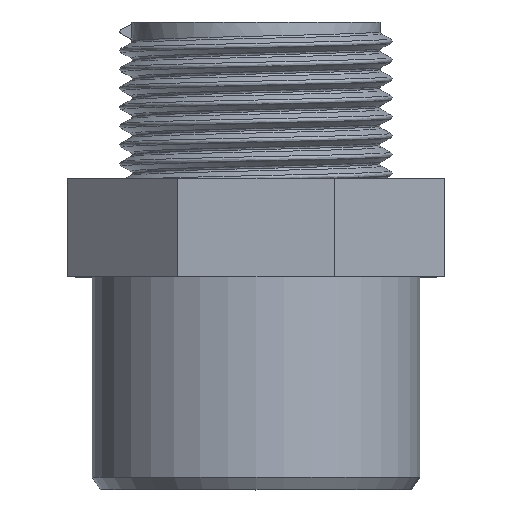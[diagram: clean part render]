
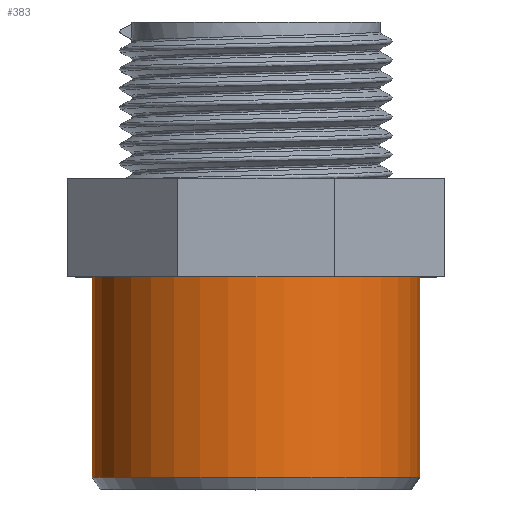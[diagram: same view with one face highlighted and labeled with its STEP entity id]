
A CAD part, top view. The second image highlights one B-rep face of the part: STEP entity #383.
In plain terms, the highlighted cylindrical face has radius 20 mm (diameter 40 mm), a full revolution.
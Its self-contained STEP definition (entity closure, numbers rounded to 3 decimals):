
#100=CYLINDRICAL_SURFACE('',#413,20.);
#106=FACE_BOUND('',#145,.T.);
#117=FACE_OUTER_BOUND('',#144,.T.);
#144=EDGE_LOOP('',(#281));
#145=EDGE_LOOP('',(#282));
#179=CIRCLE('',#411,20.);
#181=CIRCLE('',#414,20.);
#192=VERTEX_POINT('',#543);
#194=VERTEX_POINT('',#548);
#228=EDGE_CURVE('',#192,#192,#179,.T.);
#230=EDGE_CURVE('',#194,#194,#181,.T.);
#281=ORIENTED_EDGE('',*,*,#230,.F.);
#282=ORIENTED_EDGE('',*,*,#228,.F.);
#383=ADVANCED_FACE('',(#117,#106),#100,.T.);
#411=AXIS2_PLACEMENT_3D('',#544,#448,#449);
#413=AXIS2_PLACEMENT_3D('',#547,#452,#453);
#414=AXIS2_PLACEMENT_3D('',#549,#454,#455);
#448=DIRECTION('center_axis',(0.,-1.,0.));
#449=DIRECTION('ref_axis',(-1.,0.,0.));
#452=DIRECTION('center_axis',(0.,-1.,0.));
#453=DIRECTION('ref_axis',(-1.,0.,0.));
#454=DIRECTION('center_axis',(0.,1.,0.));
#455=DIRECTION('ref_axis',(-1.,0.,0.));
#543=CARTESIAN_POINT('',(20.,-30.5,0.));
#544=CARTESIAN_POINT('Origin',(0.,-30.5,0.));
#547=CARTESIAN_POINT('Origin',(0.,-6.,0.));
#548=CARTESIAN_POINT('',(20.,-6.,0.));
#549=CARTESIAN_POINT('Origin',(0.,-6.,0.));
